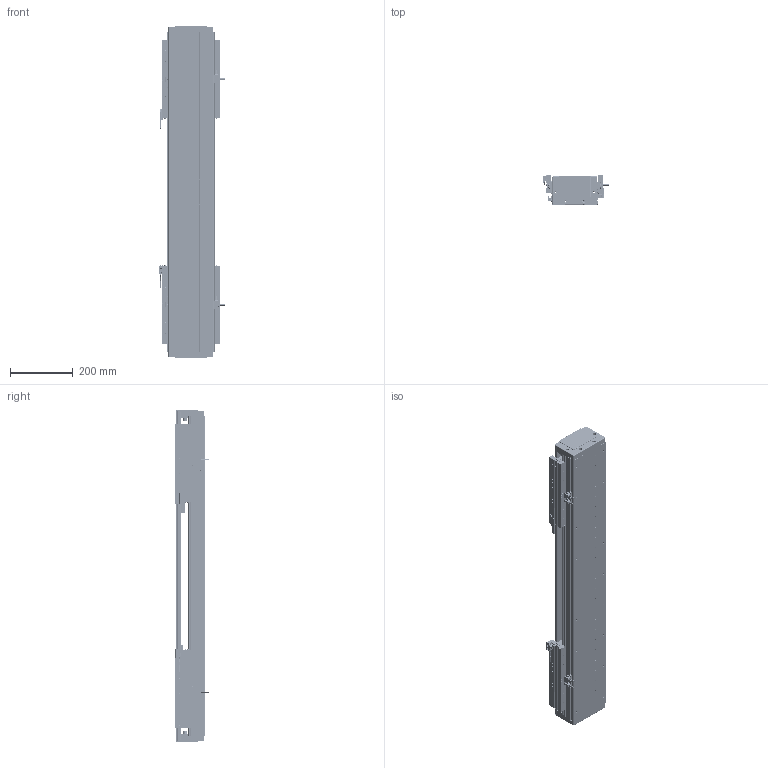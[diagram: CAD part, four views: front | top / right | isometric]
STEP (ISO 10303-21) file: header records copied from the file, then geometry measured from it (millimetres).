
FILE_DESCRIPTION (( 'STEP AP203' ), '1' );
FILE_NAME ('DA-C145-2-C3-T440-C010-0.2 眻盄萇儂.STEP', '2025-08-13T10:15:39', ( '' ), ( '' ), 'SwSTEP 2.0', 'SolidWorks 2019', '' );
FILE_SCHEMA (( 'CONFIG_CONTROL_DESIGN' ));
Length unit declared in the file: millimetre
Products named in the file (35): IU-CU145-L-00 菁釱(L1020); 葩璃 CKM03-W060-C1C2-TP-0.2^DA-C145-2-C3-T-C010-0.2; 葩璃 PM-T45^DA-C145-2-C3-T-C010-0.2; 复件 DA95-HK-GT-00 滑块钢轨^CU145-W-00 一体化滑动台板; 葩璃 DA145-DG-H-N-00 傷裔^DA-C145-2-C3-T-C010-0.2; 葩璃 DA145-C3-DP-A-00 菜えA^CU145-W 幗紩賑怢; DKW-GYP-ZJ-00 笢潔嫖萇覜茼え; 66245-CU145-HT-W-00 賑雄怢啣(3D芞祧)(00); DKW-KGZ-ZJ-00 中间光电开关支架; 葩璃 DA145-T-003-00 裔啣^DA-C145-2-C3-T-C010-0.2; 复件 DA145-GYP-00 光电感应片^DA-C145-2-C3-T-C010-0.2; 葩璃 鞠褒情蹟譫 M3^DA-C145-2-C3-T-C010-0.2; 复件 DA145-C3-YB-B-00 压板B^CU145-W 滚珠滑台; 葩璃 DA95-GT-T-00^IU-CU145-L 菁釱絳寢; 复件 DA95-MFP-01 密封片^CU145-W 滚珠滑台; 葩璃 DA95-HXJ-00 遣喳砎蝶^DA-C145-2-C3-T-C010-0.2; CU145-W-00 珨极趙賑雄怢啣-1; 葩璃 DA145-C3-DP-B-00 菜えB^CU145-W 幗紩賑怢; IU-CU145-L 菁釱絳寢; CU145-W 幗紩賑怢-1; 葩璃 CKMA01-W060-TRL^DA-C145-2-C3-T-C010-0.2; 复件 DA145-C3-YB-A-00 压板A^CU145-W 滚珠滑台; CU145-W-00 珨极趙賑雄怢啣; 复件 DA145-C3-DK-00 挡块^CU145-W 滚珠滑台; 复件 半圆头内六角螺钉 M3×6^CU145-W 滚珠滑台; 复件 DA95-DB-00  挡板^CU145-W 滚珠滑台; 葩璃 DMA-010-0.2 黍杅芛^DA-C145-2-C3-T-C010-0.2; TAY01-M8; CU145-W 幗紩賑怢; DKW168-HXJ-ZJ-00 笢潔滅袉砎蝶; 葩璃 PM-Y65^DA-C145-2-C3-T-C010-0.2; DA-C145-2-C3-T440-C010-0.2 眻盄萇儂; 葩璃 XD-U-02L 棠掑喜^DA-C145-2-C3-T-C010-0.2; 复件 纯铜油杯 6x6mm^CU145-W 滚珠滑台; 复件 内六角平端紧定螺钉 GB.T77-2000 M5×10^CU145-W 滚珠滑台
Assembly tree (175 placements, depth 4):
  DA-C145-2-C3-T440-C010-0.2 眻盄萇儂
    IU-CU145-L 菁釱絳寢
      IU-CU145-L-00 菁釱(L1020)
      葩璃 DA95-GT-T-00^IU-CU145-L 菁釱絳寢  x4
    CU145-W 幗紩賑怢
      CU145-W-00 珨极趙賑雄怢啣
        66245-CU145-HT-W-00 賑雄怢啣(3D芞祧)(00)
        复件 DA95-HK-GT-00 滑块钢轨^CU145-W-00 一体化滑动台板  x8
      复件 DA95-MFP-01 密封片^CU145-W 滚珠滑台  x8
      复件 DA95-DB-00  挡板^CU145-W 滚珠滑台  x8
      复件 内六角平端紧定螺钉 GB.T77-2000 M5×10^CU145-W 滚珠滑台  x4
      复件 纯铜油杯 6x6mm^CU145-W 滚珠滑台  x4
      复件 半圆头内六角螺钉 M3×6^CU145-W 滚珠滑台  x16
      复件 DA145-C3-DK-00 挡块^CU145-W 滚珠滑台  x4
      葩璃 DA145-C3-DP-B-00 菜えB^CU145-W 幗紩賑怢  x2
      复件 DA145-C3-YB-B-00 压板B^CU145-W 滚珠滑台  x2
      葩璃 DA145-C3-DP-A-00 菜えA^CU145-W 幗紩賑怢  x3
      复件 DA145-C3-YB-A-00 压板A^CU145-W 滚珠滑台  x3
      TAY01-M8  x4
    CU145-W 幗紩賑怢-1
      CU145-W-00 珨极趙賑雄怢啣-1
        66245-CU145-HT-W-00 賑雄怢啣(3D芞祧)(00)
        复件 DA95-HK-GT-00 滑块钢轨^CU145-W-00 一体化滑动台板  x8
      复件 DA95-MFP-01 密封片^CU145-W 滚珠滑台  x8
      复件 DA95-DB-00  挡板^CU145-W 滚珠滑台  x8
      复件 内六角平端紧定螺钉 GB.T77-2000 M5×10^CU145-W 滚珠滑台  x4
      复件 纯铜油杯 6x6mm^CU145-W 滚珠滑台  x4
      复件 半圆头内六角螺钉 M3×6^CU145-W 滚珠滑台  x16
      复件 DA145-C3-DK-00 挡块^CU145-W 滚珠滑台  x4
      葩璃 DA145-C3-DP-B-00 菜えB^CU145-W 幗紩賑怢  x2
      复件 DA145-C3-YB-B-00 压板B^CU145-W 滚珠滑台  x2
      葩璃 DA145-C3-DP-A-00 菜えA^CU145-W 幗紩賑怢  x3
      复件 DA145-C3-YB-A-00 压板A^CU145-W 滚珠滑台  x3
      TAY01-M8  x4
    葩璃 CKMA01-W060-TRL^DA-C145-2-C3-T-C010-0.2
    葩璃 PM-T45^DA-C145-2-C3-T-C010-0.2  x4
    葩璃 XD-U-02L 棠掑喜^DA-C145-2-C3-T-C010-0.2
    葩璃 DA145-DG-H-N-00 傷裔^DA-C145-2-C3-T-C010-0.2  x2
    葩璃 DA145-T-003-00 裔啣^DA-C145-2-C3-T-C010-0.2
    葩璃 DA95-HXJ-00 遣喳砎蝶^DA-C145-2-C3-T-C010-0.2  x4
    葩璃 CKM03-W060-C1C2-TP-0.2^DA-C145-2-C3-T-C010-0.2  x2
    葩璃 DMA-010-0.2 黍杅芛^DA-C145-2-C3-T-C010-0.2  x2
    复件 DA145-GYP-00 光电感应片^DA-C145-2-C3-T-C010-0.2  x2
    DKW-GYP-ZJ-00 笢潔嫖萇覜茼え
    DKW-KGZ-ZJ-00 中间光电开关支架
    葩璃 PM-Y65^DA-C145-2-C3-T-C010-0.2
    葩璃 鞠褒情蹟譫 M3^DA-C145-2-C3-T-C010-0.2  x8
    DKW168-HXJ-ZJ-00 笢潔滅袉砎蝶
Bounding box: 213.7 x 108.45 x 1060 mm (x, y, z)
Volume: 8896306 mm3; surface area: 2429887.5 mm2
Topology: 171 solids, 235 shells, 6877 faces, 17764 edges, 10875 vertices
Faces by surface type: plane 2930, cylinder 2659, cone 1120, torus 152, sphere 8, bspline 8
Entity records: 103967 total; most frequent: CARTESIAN_POINT 25322, DIRECTION 14915, ORIENTED_EDGE 14692, EDGE_CURVE 7346, AXIS2_PLACEMENT_3D 5405, VERTEX_POINT 4724, VECTOR 4105, LINE 4105
